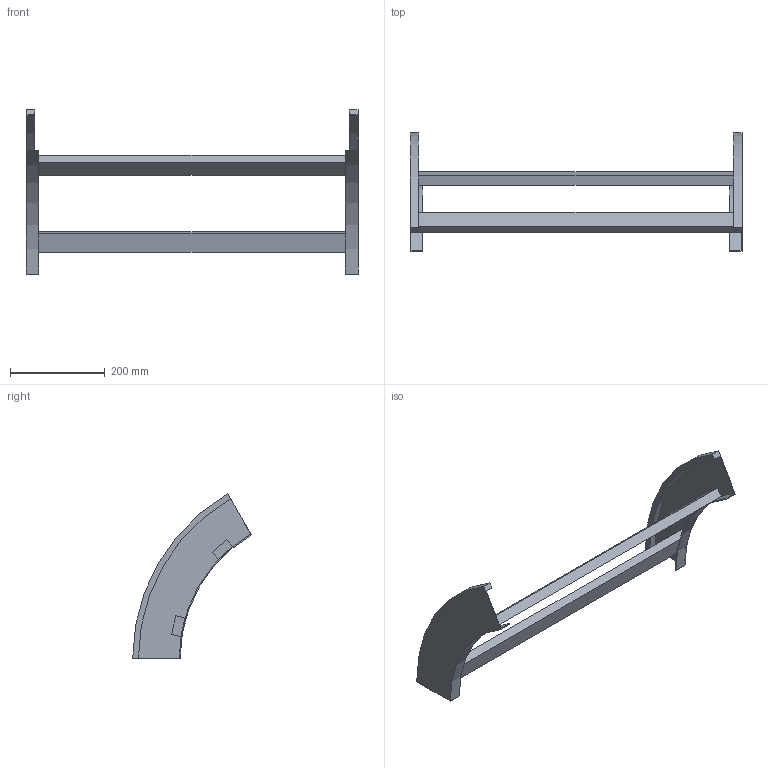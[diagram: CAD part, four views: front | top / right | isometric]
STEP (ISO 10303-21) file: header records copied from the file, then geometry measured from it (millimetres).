
FILE_DESCRIPTION (( 'STEP AP214' ), '1' );
FILE_NAME ('B2_41B3D700.step', '2025-02-21T14:57:23', ( '' ), ( '' ), 'SwSTEP 2.0', 'SolidWorks 2023', '' );
FILE_SCHEMA (( 'AUTOMOTIVE_DESIGN' ));
Length unit declared in the file: millimetre
Products named in the file (3): B2_41B3D700; TRAVERSINO_700; B2_LONGH.DISCESA_60°_H100_R300
Assembly tree (4 placements, depth 2):
  B2_41B3D700
    B2_LONGH.DISCESA_60°_H100_R300  x2
    TRAVERSINO_700  x2
Bounding box: 700 x 250 x 346.41 mm (x, y, z)
Volume: 1464085.1 mm3; surface area: 380906.6 mm2
Topology: 4 solids, 4 shells, 32 faces, 72 edges, 48 vertices
Faces by surface type: plane 24, cylinder 8
Entity records: 552 total; most frequent: DIRECTION 90, CARTESIAN_POINT 83, ORIENTED_EDGE 72, EDGE_CURVE 36, AXIS2_PLACEMENT_3D 31, LINE 28, VECTOR 28, VERTEX_POINT 24
